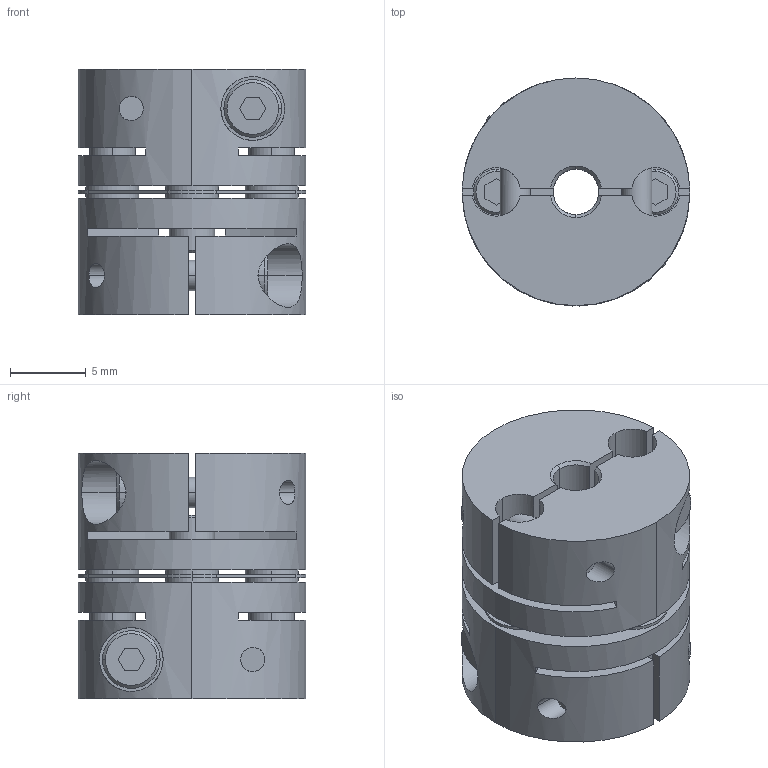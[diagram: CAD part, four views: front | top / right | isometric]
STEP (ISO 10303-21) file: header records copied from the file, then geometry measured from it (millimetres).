
FILE_DESCRIPTION((''),'2;1');
FILE_NAME('LAS-15C-3×5.stp','2011-08-09T14:17:17',(''),(''),'AutoCAD STEP 2000i','AutoCAD 2000i',', , ');
FILE_SCHEMA(('CONFIG_CONTROL_DESIGN'));
Length unit declared in the file: millimetre
Products named in the file (5): LAS-15C-3×3; 忣兜1; LA-1502-D03-1; LA-1502-D03; LAS15-ITA
Assembly tree (4 placements, depth 2):
  LAS-15C-3×3
    忣兜1
    LA-1502-D03-1
    LA-1502-D03
    LAS15-ITA
Bounding box: 15 x 15 x 16.2 mm (x, y, z)
Volume: 2203.5 mm3; surface area: 2700.1 mm2
Topology: 1 solids, 1 shells, 236 faces, 624 edges, 408 vertices
Faces by surface type: plane 112, cylinder 96, cone 28
Entity records: 8155 total; most frequent: CARTESIAN_POINT 1961, DIRECTION 1302, ORIENTED_EDGE 1248, EDGE_CURVE 624, AXIS2_PLACEMENT_3D 477, VERTEX_POINT 408, VECTOR 348, LINE 348
